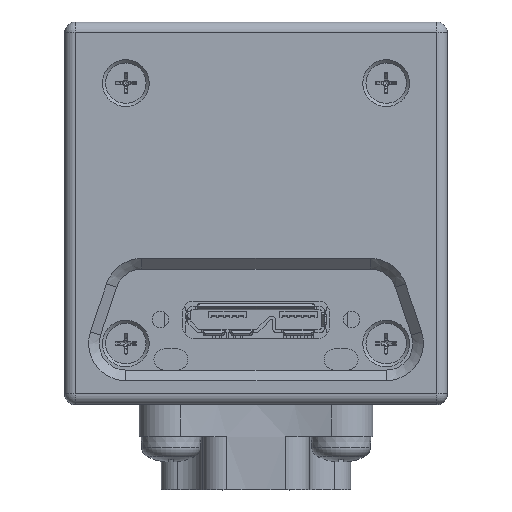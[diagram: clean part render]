
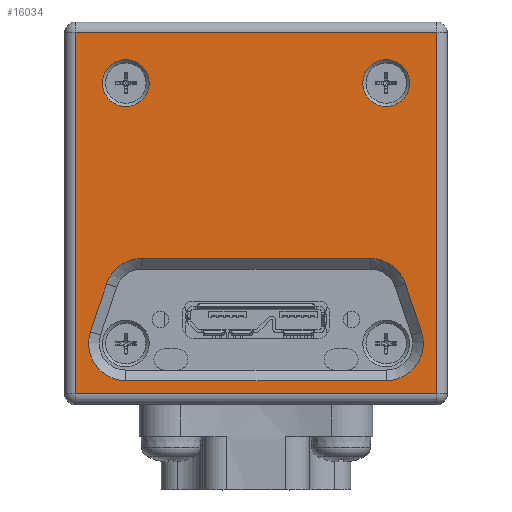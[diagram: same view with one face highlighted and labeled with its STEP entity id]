
A CAD part, top view. The second image highlights one B-rep face of the part: STEP entity #16034.
In plain terms, the highlighted planar face has unit normal (0, 0, 1).
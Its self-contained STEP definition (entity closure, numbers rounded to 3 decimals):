
#312=LINE('',#24324,#1714);
#314=LINE('',#24334,#1716);
#318=LINE('',#24347,#1720);
#322=LINE('',#24353,#1724);
#328=LINE('',#24374,#1730);
#329=LINE('',#24378,#1731);
#330=LINE('',#24382,#1732);
#331=LINE('',#24386,#1733);
#1714=VECTOR('',#19388,10.);
#1716=VECTOR('',#19400,10.);
#1720=VECTOR('',#19416,10.);
#1724=VECTOR('',#19424,10.);
#1730=VECTOR('',#19448,10.);
#1731=VECTOR('',#19451,10.);
#1732=VECTOR('',#19454,10.);
#1733=VECTOR('',#19457,10.);
#3476=FACE_BOUND('',#4722,.T.);
#3477=FACE_BOUND('',#4723,.T.);
#3478=FACE_BOUND('',#4724,.T.);
#3775=FACE_OUTER_BOUND('',#4721,.T.);
#4721=EDGE_LOOP('',(#10812,#10813,#10814,#10815));
#4722=EDGE_LOOP('',(#10816));
#4723=EDGE_LOOP('',(#10817));
#4724=EDGE_LOOP('',(#10818,#10819,#10820,#10821,#10822,#10823,#10824,#10825));
#5713=CIRCLE('',#17199,2.2);
#5715=CIRCLE('',#17203,2.2);
#5747=CIRCLE('',#17261,3.5);
#5748=CIRCLE('',#17262,3.5);
#5749=CIRCLE('',#17263,3.5);
#5750=CIRCLE('',#17264,3.5);
#6554=VERTEX_POINT('',#24237);
#6556=VERTEX_POINT('',#24243);
#6582=VERTEX_POINT('',#24310);
#6587=VERTEX_POINT('',#24320);
#6588=VERTEX_POINT('',#24327);
#6591=VERTEX_POINT('',#24340);
#6598=VERTEX_POINT('',#24372);
#6599=VERTEX_POINT('',#24373);
#6600=VERTEX_POINT('',#24375);
#6601=VERTEX_POINT('',#24377);
#6602=VERTEX_POINT('',#24379);
#6603=VERTEX_POINT('',#24381);
#6604=VERTEX_POINT('',#24383);
#6605=VERTEX_POINT('',#24385);
#8173=EDGE_CURVE('',#6554,#6554,#5713,.T.);
#8175=EDGE_CURVE('',#6556,#6556,#5715,.T.);
#8210=EDGE_CURVE('',#6582,#6587,#312,.T.);
#8215=EDGE_CURVE('',#6588,#6582,#314,.T.);
#8222=EDGE_CURVE('',#6591,#6588,#318,.T.);
#8226=EDGE_CURVE('',#6587,#6591,#322,.T.);
#8236=EDGE_CURVE('',#6598,#6599,#328,.T.);
#8237=EDGE_CURVE('',#6600,#6598,#5747,.T.);
#8238=EDGE_CURVE('',#6601,#6600,#329,.T.);
#8239=EDGE_CURVE('',#6602,#6601,#5748,.T.);
#8240=EDGE_CURVE('',#6603,#6602,#330,.T.);
#8241=EDGE_CURVE('',#6604,#6603,#5749,.T.);
#8242=EDGE_CURVE('',#6605,#6604,#331,.T.);
#8243=EDGE_CURVE('',#6599,#6605,#5750,.T.);
#10812=ORIENTED_EDGE('',*,*,#8210,.F.);
#10813=ORIENTED_EDGE('',*,*,#8215,.F.);
#10814=ORIENTED_EDGE('',*,*,#8222,.F.);
#10815=ORIENTED_EDGE('',*,*,#8226,.F.);
#10816=ORIENTED_EDGE('',*,*,#8173,.T.);
#10817=ORIENTED_EDGE('',*,*,#8175,.T.);
#10818=ORIENTED_EDGE('',*,*,#8236,.F.);
#10819=ORIENTED_EDGE('',*,*,#8237,.F.);
#10820=ORIENTED_EDGE('',*,*,#8238,.F.);
#10821=ORIENTED_EDGE('',*,*,#8239,.F.);
#10822=ORIENTED_EDGE('',*,*,#8240,.F.);
#10823=ORIENTED_EDGE('',*,*,#8241,.F.);
#10824=ORIENTED_EDGE('',*,*,#8242,.F.);
#10825=ORIENTED_EDGE('',*,*,#8243,.F.);
#14626=PLANE('',#17260);
#16034=ADVANCED_FACE('',(#3775,#3476,#3477,#3478),#14626,.F.);
#17199=AXIS2_PLACEMENT_3D('',#24238,#19295,#19296);
#17203=AXIS2_PLACEMENT_3D('',#24244,#19303,#19304);
#17260=AXIS2_PLACEMENT_3D('',#24371,#19446,#19447);
#17261=AXIS2_PLACEMENT_3D('',#24376,#19449,#19450);
#17262=AXIS2_PLACEMENT_3D('',#24380,#19452,#19453);
#17263=AXIS2_PLACEMENT_3D('',#24384,#19455,#19456);
#17264=AXIS2_PLACEMENT_3D('',#24387,#19458,#19459);
#19295=DIRECTION('center_axis',(0.,0.,
-1.));
#19296=DIRECTION('ref_axis',(-1.,0.,0.));
#19303=DIRECTION('center_axis',(0.,0.,
-1.));
#19304=DIRECTION('ref_axis',(-1.,0.,0.));
#19388=DIRECTION('',(-1.,0.,0.));
#19400=DIRECTION('',(0.,-1.,0.));
#19416=DIRECTION('',(1.,0.,0.));
#19424=DIRECTION('',(0.,1.,0.));
#19446=DIRECTION('center_axis',(0.,0.,
-1.));
#19447=DIRECTION('ref_axis',(1.,0.,0.));
#19448=DIRECTION('',(1.,0.,0.));
#19449=DIRECTION('center_axis',(0.,0.,
1.));
#19450=DIRECTION('ref_axis',(-0.949,0.316,0.));
#19451=DIRECTION('',(-0.316,-0.949,0.));
#19452=DIRECTION('center_axis',(0.,0.,
1.));
#19453=DIRECTION('ref_axis',(0.,1.,0.));
#19454=DIRECTION('',(-1.,0.,0.));
#19455=DIRECTION('center_axis',(0.,0.,
1.));
#19456=DIRECTION('ref_axis',(0.949,0.316,0.));
#19457=DIRECTION('',(-0.316,0.949,0.));
#19458=DIRECTION('center_axis',(0.,0.,
1.));
#19459=DIRECTION('ref_axis',(0.,-1.,0.));
#24237=CARTESIAN_POINT('',(10.05,12.25,23.));
#24238=CARTESIAN_POINT('Origin',(12.25,12.25,23.));
#24243=CARTESIAN_POINT('',(-14.45,12.25,23.));
#24244=CARTESIAN_POINT('Origin',(-12.25,12.25,23.));
#24310=CARTESIAN_POINT('',(17.,-17.,23.));
#24320=CARTESIAN_POINT('',(-17.,-17.,23.));
#24324=CARTESIAN_POINT('',(-9.,-17.,23.));
#24327=CARTESIAN_POINT('',(17.,17.,23.));
#24334=CARTESIAN_POINT('',(17.,-9.,23.));
#24340=CARTESIAN_POINT('',(-17.,17.,23.));
#24347=CARTESIAN_POINT('',(9.,17.,23.));
#24353=CARTESIAN_POINT('',(-17.,9.,23.));
#24371=CARTESIAN_POINT('Origin',(0.,0.,23.));
#24372=CARTESIAN_POINT('',(-12.25,-15.75,23.));
#24373=CARTESIAN_POINT('',(12.25,-15.75,23.));
#24374=CARTESIAN_POINT('',(0.,-15.75,23.));
#24375=CARTESIAN_POINT('',(-15.57,-11.143,23.));
#24376=CARTESIAN_POINT('Origin',(-12.25,-12.25,23.));
#24377=CARTESIAN_POINT('',(-14.07,-6.643,23.));
#24378=CARTESIAN_POINT('',(-13.12,-3.793,23.));
#24379=CARTESIAN_POINT('',(-10.75,-4.25,23.));
#24380=CARTESIAN_POINT('Origin',(-10.75,-7.75,23.));
#24381=CARTESIAN_POINT('',(10.75,-4.25,23.));
#24382=CARTESIAN_POINT('',(-5.375,-4.25,23.));
#24383=CARTESIAN_POINT('',(14.07,-6.643,23.));
#24384=CARTESIAN_POINT('Origin',(10.75,-7.75,23.));
#24385=CARTESIAN_POINT('',(15.57,-11.143,23.));
#24386=CARTESIAN_POINT('',(12.37,-1.543,23.));
#24387=CARTESIAN_POINT('Origin',(12.25,-12.25,23.));
